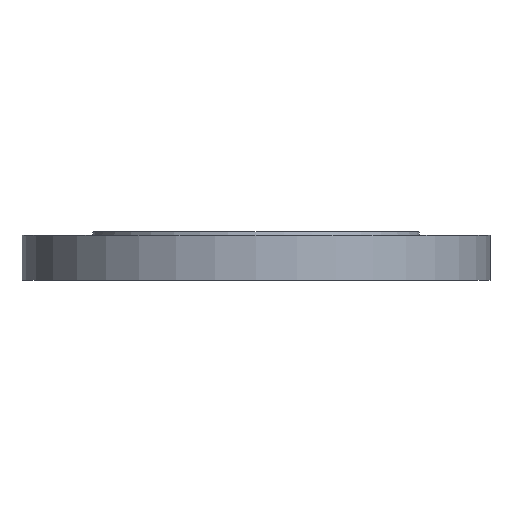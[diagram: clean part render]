
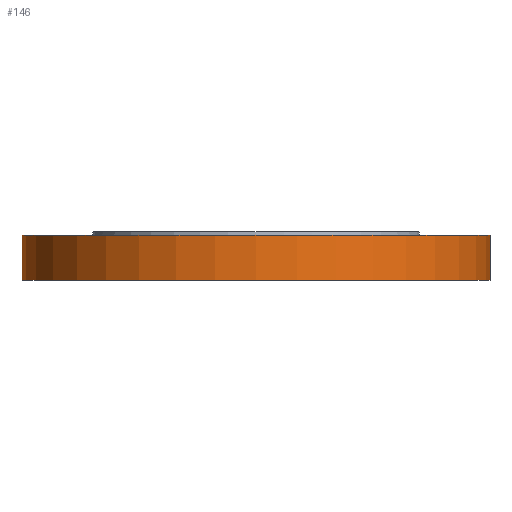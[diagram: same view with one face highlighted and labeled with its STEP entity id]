
A CAD part, front view. The second image highlights one B-rep face of the part: STEP entity #146.
In plain terms, the highlighted cylindrical face has radius 135 mm (diameter 270 mm), a partial arc.
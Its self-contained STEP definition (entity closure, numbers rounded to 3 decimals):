
#50 = LINE ( 'NONE', #378, #506 ) ;
#101 = DIRECTION ( 'NONE',  ( 1., 0., 0. ) ) ;
#118 = ORIENTED_EDGE ( 'NONE', *, *, #596, .F. ) ;
#134 = CARTESIAN_POINT ( 'NONE',  ( 0., 0., -28. ) ) ;
#146 = ADVANCED_FACE ( 'NONE', ( #922 ), #185, .T. ) ;
#170 = AXIS2_PLACEMENT_3D ( 'NONE', #134, #464, #788 ) ;
#183 = EDGE_CURVE ( 'NONE', #523, #412, #275, .T. ) ;
#185 = CYLINDRICAL_SURFACE ( 'NONE', #428, 135. ) ;
#242 = CARTESIAN_POINT ( 'NONE',  ( -135., 0., -2. ) ) ;
#253 = EDGE_CURVE ( 'NONE', #412, #513, #984, .T. ) ;
#271 = ORIENTED_EDGE ( 'NONE', *, *, #253, .T. ) ;
#275 = LINE ( 'NONE', #601, #940 ) ;
#312 = EDGE_CURVE ( 'NONE', #523, #733, #768, .T. ) ;
#370 = CARTESIAN_POINT ( 'NONE',  ( 0., 0., -2. ) ) ;
#378 = CARTESIAN_POINT ( 'NONE',  ( -135., 0., -78. ) ) ;
#395 = AXIS2_PLACEMENT_3D ( 'NONE', #370, #694, #1011 ) ;
#412 = VERTEX_POINT ( 'NONE', #471 ) ;
#428 = AXIS2_PLACEMENT_3D ( 'NONE', #514, #844, #101 ) ;
#464 = DIRECTION ( 'NONE',  ( 0., 0., -1. ) ) ;
#471 = CARTESIAN_POINT ( 'NONE',  ( 135., 0., -2. ) ) ;
#493 = CARTESIAN_POINT ( 'NONE',  ( 135., 0., -28. ) ) ;
#506 = VECTOR ( 'NONE', #702, 1000. ) ;
#513 = VERTEX_POINT ( 'NONE', #242 ) ;
#514 = CARTESIAN_POINT ( 'NONE',  ( 0., 0., -78. ) ) ;
#523 = VERTEX_POINT ( 'NONE', #493 ) ;
#531 = ORIENTED_EDGE ( 'NONE', *, *, #183, .T. ) ;
#572 = CARTESIAN_POINT ( 'NONE',  ( -135., 0., -28. ) ) ;
#596 = EDGE_CURVE ( 'NONE', #733, #513, #50, .T. ) ;
#601 = CARTESIAN_POINT ( 'NONE',  ( 135., 0., -78. ) ) ;
#643 = EDGE_LOOP ( 'NONE', ( #118, #734, #531, #271 ) ) ;
#694 = DIRECTION ( 'NONE',  ( 0., 0., -1. ) ) ;
#702 = DIRECTION ( 'NONE',  ( 0., 0., 1. ) ) ;
#733 = VERTEX_POINT ( 'NONE', #572 ) ;
#734 = ORIENTED_EDGE ( 'NONE', *, *, #312, .F. ) ;
#768 = CIRCLE ( 'NONE', #170, 135. ) ;
#788 = DIRECTION ( 'NONE',  ( -1., 0., 0. ) ) ;
#844 = DIRECTION ( 'NONE',  ( 0., 0., 1. ) ) ;
#922 = FACE_OUTER_BOUND ( 'NONE', #643, .T. ) ;
#933 = DIRECTION ( 'NONE',  ( 0., 0., 1. ) ) ;
#940 = VECTOR ( 'NONE', #933, 1000. ) ;
#984 = CIRCLE ( 'NONE', #395, 135. ) ;
#1011 = DIRECTION ( 'NONE',  ( -1., 0., 0. ) ) ;
